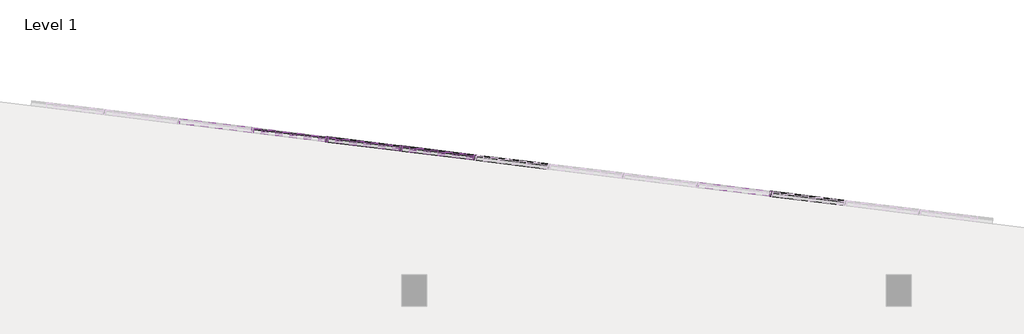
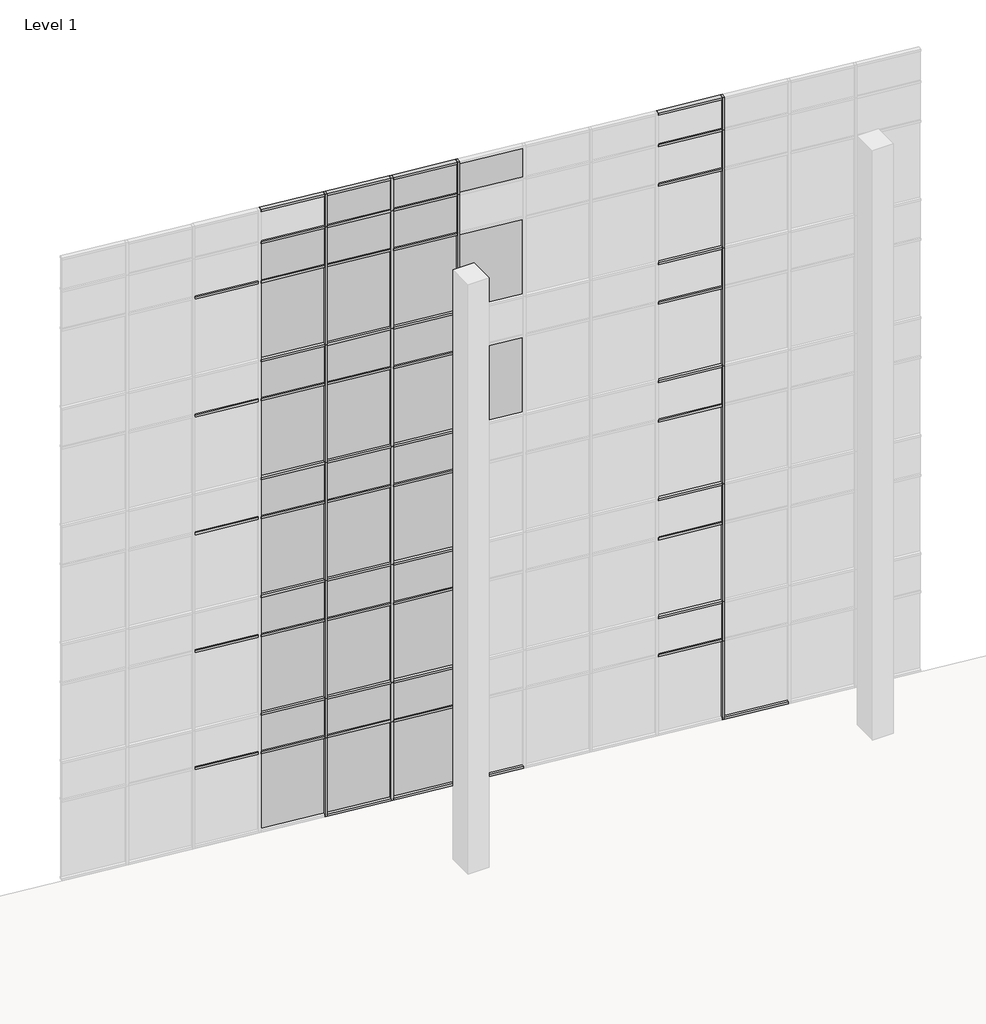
# One storey, part 18 of 23: 81 members, 35 plates.
"""IFC4 building model written with IfcOpenShell, lengths in millimetres."""

from ifc_helpers import new_model, si_unit, origin, place, context, project, spatial, transform, mapped, element, save
from components import member_2b49869a, member_f92b8aa2, member_810865a4, member_f0fea5a5, member_6d5c3e5e, member_9764dd38, system_panel_glazed_14c75400, system_panel_glazed_5b519c5a, system_panel_solid_5dfe6f83, system_panel_solid_e25e2004, system_panel_solid_b7551183

model = new_model("IFC4")

# Units and contexts
model_context = context("Model", 3, world=origin())
ifc_project = project(units=[si_unit("LENGTHUNIT", "METRE", prefix="MILLI")], contexts=[model_context])

# Site, building, storey
site = spatial("IfcSite", under=ifc_project)
building = spatial("IfcBuilding", under=site)
storey = spatial("IfcBuildingStorey", under=building, Name="Level 1", Elevation=0.0)

# Members
placement = place(None, origin())
member_shape = member_2b49869a(model_context)
element("IfcMember", 1, ObjectType="Rectangular Mullion : 2.5\" x 5\" rectangular", at=placement, inside=storey, context=model_context, shape_type="MappedRepresentation", body=[
    mapped(member_shape, transform((-11146.0047635, 13239.9184774, 2438.4), x_axis=(0.9925461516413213, -0.12186934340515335, 0.0), y_axis=(-0.12186934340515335, -0.9925461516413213, 0.0), z_axis=(0.0, 0.0, -1.0))),
])
element("IfcMember", 2, ObjectType="Rectangular Mullion : 2.5\" x 5\" rectangular", at=placement, inside=storey, context=model_context, shape_type="MappedRepresentation", body=[
    mapped(member_shape, transform((-254.9943507, 11902.6705461, 2438.4), x_axis=(0.9925461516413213, -0.12186934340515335, 0.0), y_axis=(-0.12186934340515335, -0.9925461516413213, 0.0), z_axis=(0.0, 0.0, -1.0))),
])
member_2_shape = member_f92b8aa2(model_context)
element("IfcMember", 3, ObjectType="Rectangular Mullion : 2.5\" x 5\" rectangular", at=placement, inside=storey, context=model_context, shape_type="MappedRepresentation", body=[
    mapped(member_2_shape, transform((-7515.6679592, 12794.169167, 18288.0), x_axis=(0.9925461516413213, -0.12186934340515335, 0.0), y_axis=(-0.12186934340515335, -0.9925461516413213, 0.0), z_axis=(0.0, 0.0, -1.0))),
])
element("IfcMember", 4, ObjectType="Rectangular Mullion : 2.5\" x 5\" rectangular", at=placement, inside=storey, context=model_context, shape_type="MappedRepresentation", body=[
    mapped(member_2_shape, transform((-9330.8363614, 13017.0438222, 18288.0), x_axis=(0.9925461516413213, -0.12186934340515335, 0.0), y_axis=(-0.12186934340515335, -0.9925461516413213, 0.0), z_axis=(0.0, 0.0, -1.0))),
])
element("IfcMember", 5, ObjectType="Rectangular Mullion : 2.5\" x 5\" rectangular", at=placement, inside=storey, context=model_context, shape_type="MappedRepresentation", body=[
    mapped(member_2_shape, transform((-11146.0047635, 13239.9184774, 18288.0), x_axis=(0.9925461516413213, -0.12186934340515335, 0.0), y_axis=(-0.12186934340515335, -0.9925461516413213, 0.0), z_axis=(0.0, 0.0, -1.0))),
])
element("IfcMember", 6, ObjectType="Rectangular Mullion : 2.5\" x 5\" rectangular", at=placement, inside=storey, context=model_context, shape_type="MappedRepresentation", body=[
    mapped(member_2_shape, transform((-254.9943507, 11902.6705461, 18288.0), x_axis=(0.9925461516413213, -0.12186934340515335, 0.0), y_axis=(-0.12186934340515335, -0.9925461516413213, 0.0), z_axis=(0.0, 0.0, -1.0))),
])
member_3_shape = member_810865a4(model_context)
element("IfcMember", 7, ObjectType="Rectangular Mullion : 2.5\" x 5\" rectangular", at=placement, inside=storey, context=model_context, shape_type="MappedRepresentation", body=[
    mapped(member_3_shape, transform((-11146.0047635, 13239.9184774, 3657.6), x_axis=(0.9925461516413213, -0.12186934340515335, 0.0), y_axis=(-0.12186934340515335, -0.9925461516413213, 0.0), z_axis=(0.0, 0.0, -1.0))),
])
element("IfcMember", 8, ObjectType="Rectangular Mullion : 2.5\" x 5\" rectangular", at=placement, inside=storey, context=model_context, shape_type="MappedRepresentation", body=[
    mapped(member_3_shape, transform((-7515.6679592, 12794.169167, 14630.4), x_axis=(0.9925461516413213, -0.12186934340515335, 0.0), y_axis=(-0.12186934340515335, -0.9925461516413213, 0.0), z_axis=(0.0, 0.0, -1.0))),
])
element("IfcMember", 9, ObjectType="Rectangular Mullion : 2.5\" x 5\" rectangular", at=placement, inside=storey, context=model_context, shape_type="MappedRepresentation", body=[
    mapped(member_3_shape, transform((-7515.6679592, 12794.169167, 10972.8), x_axis=(0.9925461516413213, -0.12186934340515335, 0.0), y_axis=(-0.12186934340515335, -0.9925461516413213, 0.0), z_axis=(0.0, 0.0, -1.0))),
])
element("IfcMember", 10, ObjectType="Rectangular Mullion : 2.5\" x 5\" rectangular", at=placement, inside=storey, context=model_context, shape_type="MappedRepresentation", body=[
    mapped(member_3_shape, transform((-7515.6679592, 12794.169167, 7315.2), x_axis=(0.9925461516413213, -0.12186934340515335, 0.0), y_axis=(-0.12186934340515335, -0.9925461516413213, 0.0), z_axis=(0.0, 0.0, -1.0))),
])
element("IfcMember", 11, ObjectType="Rectangular Mullion : 2.5\" x 5\" rectangular", at=placement, inside=storey, context=model_context, shape_type="MappedRepresentation", body=[
    mapped(member_3_shape, transform((-7515.6679592, 12794.169167, 3657.6), x_axis=(0.9925461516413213, -0.12186934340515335, 0.0), y_axis=(-0.12186934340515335, -0.9925461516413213, 0.0), z_axis=(0.0, 0.0, -1.0))),
])
element("IfcMember", 12, ObjectType="Rectangular Mullion : 2.5\" x 5\" rectangular", at=placement, inside=storey, context=model_context, shape_type="MappedRepresentation", body=[
    mapped(member_3_shape, transform((-9330.8363614, 13017.0438222, 14630.4), x_axis=(0.9925461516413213, -0.12186934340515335, 0.0), y_axis=(-0.12186934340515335, -0.9925461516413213, 0.0), z_axis=(0.0, 0.0, -1.0))),
])
element("IfcMember", 13, ObjectType="Rectangular Mullion : 2.5\" x 5\" rectangular", at=placement, inside=storey, context=model_context, shape_type="MappedRepresentation", body=[
    mapped(member_3_shape, transform((-9330.8363614, 13017.0438222, 10972.8), x_axis=(0.9925461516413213, -0.12186934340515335, 0.0), y_axis=(-0.12186934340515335, -0.9925461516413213, 0.0), z_axis=(0.0, 0.0, -1.0))),
])
element("IfcMember", 14, ObjectType="Rectangular Mullion : 2.5\" x 5\" rectangular", at=placement, inside=storey, context=model_context, shape_type="MappedRepresentation", body=[
    mapped(member_3_shape, transform((-9330.8363614, 13017.0438222, 7315.2), x_axis=(0.9925461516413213, -0.12186934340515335, 0.0), y_axis=(-0.12186934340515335, -0.9925461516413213, 0.0), z_axis=(0.0, 0.0, -1.0))),
])
element("IfcMember", 15, ObjectType="Rectangular Mullion : 2.5\" x 5\" rectangular", at=placement, inside=storey, context=model_context, shape_type="MappedRepresentation", body=[
    mapped(member_3_shape, transform((-9330.8363614, 13017.0438222, 3657.6), x_axis=(0.9925461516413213, -0.12186934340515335, 0.0), y_axis=(-0.12186934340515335, -0.9925461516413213, 0.0), z_axis=(0.0, 0.0, -1.0))),
])
element("IfcMember", 16, ObjectType="Rectangular Mullion : 2.5\" x 5\" rectangular", at=placement, inside=storey, context=model_context, shape_type="MappedRepresentation", body=[
    mapped(member_3_shape, transform((-11146.0047635, 13239.9184774, 14630.4), x_axis=(0.9925461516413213, -0.12186934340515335, 0.0), y_axis=(-0.12186934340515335, -0.9925461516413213, 0.0), z_axis=(0.0, 0.0, -1.0))),
])
element("IfcMember", 17, ObjectType="Rectangular Mullion : 2.5\" x 5\" rectangular", at=placement, inside=storey, context=model_context, shape_type="MappedRepresentation", body=[
    mapped(member_3_shape, transform((-11146.0047635, 13239.9184774, 10972.8), x_axis=(0.9925461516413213, -0.12186934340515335, 0.0), y_axis=(-0.12186934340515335, -0.9925461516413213, 0.0), z_axis=(0.0, 0.0, -1.0))),
])
element("IfcMember", 18, ObjectType="Rectangular Mullion : 2.5\" x 5\" rectangular", at=placement, inside=storey, context=model_context, shape_type="MappedRepresentation", body=[
    mapped(member_3_shape, transform((-11146.0047635, 13239.9184774, 7315.2), x_axis=(0.9925461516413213, -0.12186934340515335, 0.0), y_axis=(-0.12186934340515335, -0.9925461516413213, 0.0), z_axis=(0.0, 0.0, -1.0))),
])
element("IfcMember", 19, ObjectType="Rectangular Mullion : 2.5\" x 5\" rectangular", at=placement, inside=storey, context=model_context, shape_type="MappedRepresentation", body=[
    mapped(member_3_shape, transform((-254.9943507, 11902.6705461, 14630.4), x_axis=(0.9925461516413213, -0.12186934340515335, 0.0), y_axis=(-0.12186934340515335, -0.9925461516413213, 0.0), z_axis=(0.0, 0.0, -1.0))),
])
element("IfcMember", 20, ObjectType="Rectangular Mullion : 2.5\" x 5\" rectangular", at=placement, inside=storey, context=model_context, shape_type="MappedRepresentation", body=[
    mapped(member_3_shape, transform((-254.9943507, 11902.6705461, 10972.8), x_axis=(0.9925461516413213, -0.12186934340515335, 0.0), y_axis=(-0.12186934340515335, -0.9925461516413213, 0.0), z_axis=(0.0, 0.0, -1.0))),
])
element("IfcMember", 21, ObjectType="Rectangular Mullion : 2.5\" x 5\" rectangular", at=placement, inside=storey, context=model_context, shape_type="MappedRepresentation", body=[
    mapped(member_3_shape, transform((-254.9943507, 11902.6705461, 7315.2), x_axis=(0.9925461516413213, -0.12186934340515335, 0.0), y_axis=(-0.12186934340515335, -0.9925461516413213, 0.0), z_axis=(0.0, 0.0, -1.0))),
])
element("IfcMember", 22, ObjectType="Rectangular Mullion : 2.5\" x 5\" rectangular", at=placement, inside=storey, context=model_context, shape_type="MappedRepresentation", body=[
    mapped(member_3_shape, transform((-254.9943507, 11902.6705461, 3657.6), x_axis=(0.9925461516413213, -0.12186934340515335, 0.0), y_axis=(-0.12186934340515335, -0.9925461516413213, 0.0), z_axis=(0.0, 0.0, -1.0))),
])
member_4_shape = member_f0fea5a5(model_context)
element("IfcMember", 23, ObjectType="Rectangular Mullion : 2.5\" x 5\" rectangular", at=placement, inside=storey, context=model_context, shape_type="MappedRepresentation", body=[
    mapped(member_4_shape, transform((-11146.0047635, 13239.9184774, 0.0), x_axis=(0.9925461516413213, -0.12186934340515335, 0.0), y_axis=(-0.12186934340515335, -0.9925461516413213, 0.0), z_axis=(0.0, 0.0, -1.0))),
])
element("IfcMember", 24, ObjectType="Rectangular Mullion : 2.5\" x 5\" rectangular", at=placement, inside=storey, context=model_context, shape_type="MappedRepresentation", body=[
    mapped(member_4_shape, transform((-254.9943507, 11902.6705461, 0.0), x_axis=(0.9925461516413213, -0.12186934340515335, 0.0), y_axis=(-0.12186934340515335, -0.9925461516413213, 0.0), z_axis=(0.0, 0.0, -1.0))),
])
element("IfcMember", 25, ObjectType="Rectangular Mullion : 2.5\" x 5\" rectangular", at=placement, inside=storey, context=model_context, shape_type="MappedRepresentation", body=[
    mapped(member_4_shape, transform((-7515.6679592, 12794.169167, 0.0), x_axis=(0.9925461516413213, -0.12186934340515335, 0.0), y_axis=(-0.12186934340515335, -0.9925461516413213, 0.0), z_axis=(0.0, 0.0, -1.0))),
])
element("IfcMember", 26, ObjectType="Rectangular Mullion : 2.5\" x 5\" rectangular", at=placement, inside=storey, context=model_context, shape_type="MappedRepresentation", body=[
    mapped(member_4_shape, transform((-9330.8363614, 13017.0438222, 0.0), x_axis=(0.9925461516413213, -0.12186934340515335, 0.0), y_axis=(-0.12186934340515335, -0.9925461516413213, 0.0), z_axis=(0.0, 0.0, -1.0))),
])
element("IfcMember", 27, ObjectType="Rectangular Mullion : 2.5\" x 5\" rectangular", at=placement, inside=storey, context=model_context, shape_type="MappedRepresentation", body=[
    mapped(member_shape, transform((-7515.6679592, 12794.169167, 2438.4), x_axis=(0.9925461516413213, -0.12186934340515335, 0.0), y_axis=(-0.12186934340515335, -0.9925461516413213, 0.0), z_axis=(0.0, 0.0, -1.0))),
])
element("IfcMember", 28, ObjectType="Rectangular Mullion : 2.5\" x 5\" rectangular", at=placement, inside=storey, context=model_context, shape_type="MappedRepresentation", body=[
    mapped(member_shape, transform((-9330.8363614, 13017.0438222, 2438.4), x_axis=(0.9925461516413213, -0.12186934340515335, 0.0), y_axis=(-0.12186934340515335, -0.9925461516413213, 0.0), z_axis=(0.0, 0.0, -1.0))),
])
member_5_shape = member_6d5c3e5e(model_context)
element("IfcMember", 29, ObjectType="Rectangular Mullion : 2.5\" x 5\" rectangular", at=placement, inside=storey, context=model_context, shape_type="MappedRepresentation", body=[
    mapped(member_5_shape, transform((-9362.3497017, 13020.9131738, 19304.0), x_axis=(0.0, 0.0, 1.0), y_axis=(-0.12186934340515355, -0.9925461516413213, 0.0), z_axis=(0.9925461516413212, -0.12186934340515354, 0.0))),
])
element("IfcMember", 30, ObjectType="Rectangular Mullion : 2.5\" x 5\" rectangular", at=placement, inside=storey, context=model_context, shape_type="MappedRepresentation", body=[
    mapped(member_5_shape, transform((-11177.5181038, 13243.7878291, 19304.0), x_axis=(0.0, 0.0, 1.0), y_axis=(-0.12186934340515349, -0.9925461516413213, 0.0), z_axis=(0.9925461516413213, -0.12186934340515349, 0.0))),
])
element("IfcMember", 31, ObjectType="Rectangular Mullion : 2.5\" x 5\" rectangular", at=placement, inside=storey, context=model_context, shape_type="MappedRepresentation", body=[
    mapped(member_5_shape, transform((-286.5076911, 11906.5398977, 19304.0), x_axis=(0.0, 0.0, 1.0), y_axis=(-0.12186934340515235, -0.9925461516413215, 0.0), z_axis=(0.9925461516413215, -0.12186934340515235, 0.0))),
])
element("IfcMember", 32, ObjectType="Rectangular Mullion : 2.5\" x 5\" rectangular", at=placement, inside=storey, context=model_context, shape_type="MappedRepresentation", body=[
    mapped(member_5_shape, transform((-7547.1812995, 12798.0385186, 19304.0), x_axis=(0.0, 0.0, 1.0), y_axis=(-0.12186934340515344, -0.9925461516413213, 0.0), z_axis=(0.9925461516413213, -0.12186934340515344, 0.0))),
])
member_6_shape = member_9764dd38(model_context)
element("IfcMember", 33, ObjectType="Rectangular Mullion : 2.5\" x 5\" rectangular", at=placement, inside=storey, context=model_context, shape_type="MappedRepresentation", body=[
    mapped(member_6_shape, transform((-286.5076911, 11906.5398977, 17068.8), x_axis=(0.0, 0.0, 1.0), y_axis=(-0.12186934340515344, -0.9925461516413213, 0.0), z_axis=(0.9925461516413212, -0.12186934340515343, 0.0))),
])
element("IfcMember", 34, ObjectType="Rectangular Mullion : 2.5\" x 5\" rectangular", at=placement, inside=storey, context=model_context, shape_type="MappedRepresentation", body=[
    mapped(member_6_shape, transform((-7547.1812995, 12798.0385186, 17068.8), x_axis=(0.0, 0.0, 1.0), y_axis=(-0.12186934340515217, -0.9925461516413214, 0.0), z_axis=(0.9925461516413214, -0.12186934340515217, 0.0))),
])
element("IfcMember", 35, ObjectType="Rectangular Mullion : 2.5\" x 5\" rectangular", at=placement, inside=storey, context=model_context, shape_type="MappedRepresentation", body=[
    mapped(member_6_shape, transform((-9362.3497017, 13020.9131738, 17068.8), x_axis=(0.0, 0.0, 1.0), y_axis=(-0.12186934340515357, -0.9925461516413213, 0.0), z_axis=(0.9925461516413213, -0.12186934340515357, 0.0))),
])
element("IfcMember", 36, ObjectType="Rectangular Mullion : 2.5\" x 5\" rectangular", at=placement, inside=storey, context=model_context, shape_type="MappedRepresentation", body=[
    mapped(member_6_shape, transform((-11177.5181038, 13243.7878291, 17068.8), x_axis=(0.0, 0.0, 1.0), y_axis=(-0.12186934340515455, -0.9925461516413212, 0.0), z_axis=(0.9925461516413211, -0.12186934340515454, 0.0))),
])
element("IfcMember", 37, ObjectType="Rectangular Mullion : 2.5\" x 5\" rectangular", at=placement, inside=storey, context=model_context, shape_type="MappedRepresentation", body=[
    mapped(member_6_shape, transform((-12992.6865059, 13466.6624843, 17068.8), x_axis=(0.0, 0.0, 1.0), y_axis=(-0.12186934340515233, -0.9925461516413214, 0.0), z_axis=(0.9925461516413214, -0.12186934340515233, 0.0))),
])
element("IfcMember", 38, ObjectType="Rectangular Mullion : 2.5\" x 5\" rectangular", at=placement, inside=storey, context=model_context, shape_type="MappedRepresentation", body=[
    mapped(member_6_shape, transform((-286.5076911, 11906.5398977, 13411.2), x_axis=(0.0, 0.0, 1.0), y_axis=(-0.12186934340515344, -0.9925461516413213, 0.0), z_axis=(0.9925461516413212, -0.12186934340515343, 0.0))),
])
element("IfcMember", 39, ObjectType="Rectangular Mullion : 2.5\" x 5\" rectangular", at=placement, inside=storey, context=model_context, shape_type="MappedRepresentation", body=[
    mapped(member_6_shape, transform((-7547.1812995, 12798.0385186, 13411.2), x_axis=(0.0, 0.0, 1.0), y_axis=(-0.12186934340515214, -0.9925461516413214, 0.0), z_axis=(0.9925461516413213, -0.12186934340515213, 0.0))),
])
element("IfcMember", 40, ObjectType="Rectangular Mullion : 2.5\" x 5\" rectangular", at=placement, inside=storey, context=model_context, shape_type="MappedRepresentation", body=[
    mapped(member_6_shape, transform((-9362.3497017, 13020.9131738, 13411.2), x_axis=(0.0, 0.0, 1.0), y_axis=(-0.12186934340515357, -0.9925461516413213, 0.0), z_axis=(0.9925461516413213, -0.12186934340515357, 0.0))),
])
element("IfcMember", 41, ObjectType="Rectangular Mullion : 2.5\" x 5\" rectangular", at=placement, inside=storey, context=model_context, shape_type="MappedRepresentation", body=[
    mapped(member_6_shape, transform((-11177.5181038, 13243.7878291, 13411.2), x_axis=(0.0, 0.0, 1.0), y_axis=(-0.12186934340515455, -0.9925461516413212, 0.0), z_axis=(0.9925461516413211, -0.12186934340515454, 0.0))),
])
element("IfcMember", 42, ObjectType="Rectangular Mullion : 2.5\" x 5\" rectangular", at=placement, inside=storey, context=model_context, shape_type="MappedRepresentation", body=[
    mapped(member_6_shape, transform((-12992.6865059, 13466.6624843, 13411.2), x_axis=(0.0, 0.0, 1.0), y_axis=(-0.12186934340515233, -0.9925461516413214, 0.0), z_axis=(0.9925461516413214, -0.12186934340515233, 0.0))),
])
element("IfcMember", 43, ObjectType="Rectangular Mullion : 2.5\" x 5\" rectangular", at=placement, inside=storey, context=model_context, shape_type="MappedRepresentation", body=[
    mapped(member_6_shape, transform((-286.5076911, 11906.5398977, 9753.6), x_axis=(0.0, 0.0, 1.0), y_axis=(-0.12186934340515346, -0.9925461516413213, 0.0), z_axis=(0.9925461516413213, -0.12186934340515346, 0.0))),
])
element("IfcMember", 44, ObjectType="Rectangular Mullion : 2.5\" x 5\" rectangular", at=placement, inside=storey, context=model_context, shape_type="MappedRepresentation", body=[
    mapped(member_6_shape, transform((-7547.1812995, 12798.0385186, 9753.6), x_axis=(0.0, 0.0, 1.0), y_axis=(-0.12186934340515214, -0.9925461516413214, 0.0), z_axis=(0.9925461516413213, -0.12186934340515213, 0.0))),
])
element("IfcMember", 45, ObjectType="Rectangular Mullion : 2.5\" x 5\" rectangular", at=placement, inside=storey, context=model_context, shape_type="MappedRepresentation", body=[
    mapped(member_6_shape, transform((-9362.3497017, 13020.9131738, 9753.6), x_axis=(0.0, 0.0, 1.0), y_axis=(-0.12186934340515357, -0.9925461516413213, 0.0), z_axis=(0.9925461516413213, -0.12186934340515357, 0.0))),
])
element("IfcMember", 46, ObjectType="Rectangular Mullion : 2.5\" x 5\" rectangular", at=placement, inside=storey, context=model_context, shape_type="MappedRepresentation", body=[
    mapped(member_6_shape, transform((-11177.5181038, 13243.7878291, 9753.6), x_axis=(0.0, 0.0, 1.0), y_axis=(-0.12186934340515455, -0.9925461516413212, 0.0), z_axis=(0.9925461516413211, -0.12186934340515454, 0.0))),
])
element("IfcMember", 47, ObjectType="Rectangular Mullion : 2.5\" x 5\" rectangular", at=placement, inside=storey, context=model_context, shape_type="MappedRepresentation", body=[
    mapped(member_6_shape, transform((-12992.6865059, 13466.6624843, 9753.6), x_axis=(0.0, 0.0, 1.0), y_axis=(-0.12186934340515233, -0.9925461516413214, 0.0), z_axis=(0.9925461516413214, -0.12186934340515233, 0.0))),
])
element("IfcMember", 48, ObjectType="Rectangular Mullion : 2.5\" x 5\" rectangular", at=placement, inside=storey, context=model_context, shape_type="MappedRepresentation", body=[
    mapped(member_6_shape, transform((-286.5076911, 11906.5398977, 6096.0), x_axis=(0.0, 0.0, 1.0), y_axis=(-0.12186934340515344, -0.9925461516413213, 0.0), z_axis=(0.9925461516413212, -0.12186934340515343, 0.0))),
])
element("IfcMember", 49, ObjectType="Rectangular Mullion : 2.5\" x 5\" rectangular", at=placement, inside=storey, context=model_context, shape_type="MappedRepresentation", body=[
    mapped(member_6_shape, transform((-7547.1812995, 12798.0385186, 6096.0), x_axis=(0.0, 0.0, 1.0), y_axis=(-0.12186934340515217, -0.9925461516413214, 0.0), z_axis=(0.9925461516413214, -0.12186934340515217, 0.0))),
])
element("IfcMember", 50, ObjectType="Rectangular Mullion : 2.5\" x 5\" rectangular", at=placement, inside=storey, context=model_context, shape_type="MappedRepresentation", body=[
    mapped(member_6_shape, transform((-9362.3497017, 13020.9131738, 6096.0), x_axis=(0.0, 0.0, 1.0), y_axis=(-0.12186934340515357, -0.9925461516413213, 0.0), z_axis=(0.9925461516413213, -0.12186934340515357, 0.0))),
])
element("IfcMember", 51, ObjectType="Rectangular Mullion : 2.5\" x 5\" rectangular", at=placement, inside=storey, context=model_context, shape_type="MappedRepresentation", body=[
    mapped(member_6_shape, transform((-11177.5181038, 13243.7878291, 6096.0), x_axis=(0.0, 0.0, 1.0), y_axis=(-0.12186934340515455, -0.9925461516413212, 0.0), z_axis=(0.9925461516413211, -0.12186934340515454, 0.0))),
])
element("IfcMember", 52, ObjectType="Rectangular Mullion : 2.5\" x 5\" rectangular", at=placement, inside=storey, context=model_context, shape_type="MappedRepresentation", body=[
    mapped(member_6_shape, transform((-12992.6865059, 13466.6624843, 6096.0), x_axis=(0.0, 0.0, 1.0), y_axis=(-0.12186934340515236, -0.9925461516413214, 0.0), z_axis=(0.9925461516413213, -0.12186934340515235, 0.0))),
])
element("IfcMember", 53, ObjectType="Rectangular Mullion : 2.5\" x 5\" rectangular", at=placement, inside=storey, context=model_context, shape_type="MappedRepresentation", body=[
    mapped(member_6_shape, transform((-286.5076911, 11906.5398977, 2470.15), x_axis=(0.0, 0.0, 1.0), y_axis=(-0.12186934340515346, -0.9925461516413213, 0.0), z_axis=(0.9925461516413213, -0.12186934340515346, 0.0))),
])
element("IfcMember", 54, ObjectType="Rectangular Mullion : 2.5\" x 5\" rectangular", at=placement, inside=storey, context=model_context, shape_type="MappedRepresentation", body=[
    mapped(member_6_shape, transform((-9362.3497017, 13020.9131738, 2470.15), x_axis=(0.0, 0.0, 1.0), y_axis=(-0.12186934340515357, -0.9925461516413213, 0.0), z_axis=(0.9925461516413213, -0.12186934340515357, 0.0))),
])
element("IfcMember", 55, ObjectType="Rectangular Mullion : 2.5\" x 5\" rectangular", at=placement, inside=storey, context=model_context, shape_type="MappedRepresentation", body=[
    mapped(member_6_shape, transform((-11177.5181038, 13243.7878291, 2470.15), x_axis=(0.0, 0.0, 1.0), y_axis=(-0.12186934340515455, -0.9925461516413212, 0.0), z_axis=(0.9925461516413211, -0.12186934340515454, 0.0))),
])
element("IfcMember", 56, ObjectType="Rectangular Mullion : 2.5\" x 5\" rectangular", at=placement, inside=storey, context=model_context, shape_type="MappedRepresentation", body=[
    mapped(member_6_shape, transform((-12992.6865059, 13466.6624843, 2470.15), x_axis=(0.0, 0.0, 1.0), y_axis=(-0.12186934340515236, -0.9925461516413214, 0.0), z_axis=(0.9925461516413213, -0.12186934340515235, 0.0))),
])
element("IfcMember", 57, ObjectType="Rectangular Mullion : 2.5\" x 5\" rectangular", at=placement, inside=storey, context=model_context, shape_type="MappedRepresentation", body=[
    mapped(member_5_shape, transform((-223.4810104, 11898.8011944, 0.0), x_axis=(0.0, 0.0, -1.0), y_axis=(-0.12186934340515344, -0.9925461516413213, 0.0), z_axis=(-0.9925461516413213, 0.12186934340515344, 0.0))),
])
element("IfcMember", 58, ObjectType="Rectangular Mullion : 2.5\" x 5\" rectangular", at=placement, inside=storey, context=model_context, shape_type="MappedRepresentation", body=[
    mapped(member_5_shape, transform((-7484.1546189, 12790.2998153, 0.0), x_axis=(0.0, 0.0, -1.0), y_axis=(-0.12186934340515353, -0.9925461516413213, 0.0), z_axis=(-0.9925461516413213, 0.12186934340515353, 0.0))),
])
element("IfcMember", 59, ObjectType="Rectangular Mullion : 2.5\" x 5\" rectangular", at=placement, inside=storey, context=model_context, shape_type="MappedRepresentation", body=[
    mapped(member_5_shape, transform((-11114.4914232, 13236.0491257, 0.0), x_axis=(0.0, 0.0, -1.0), y_axis=(-0.12186934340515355, -0.9925461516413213, 0.0), z_axis=(-0.9925461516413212, 0.12186934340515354, 0.0))),
])
element("IfcMember", 60, ObjectType="Rectangular Mullion : 2.5\" x 5\" rectangular", at=placement, inside=storey, context=model_context, shape_type="MappedRepresentation", body=[
    mapped(member_5_shape, transform((-9299.323021, 13013.1744705, 0.0), x_axis=(0.0, 0.0, -1.0), y_axis=(-0.12186934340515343, -0.9925461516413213, 0.0), z_axis=(-0.9925461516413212, 0.12186934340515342, 0.0))),
])
element("IfcMember", 61, ObjectType="Rectangular Mullion : 2.5\" x 5\" rectangular", at=placement, inside=storey, context=model_context, shape_type="MappedRepresentation", body=[
    mapped(member_6_shape, transform((-286.5076911, 11906.5398977, 3657.6), x_axis=(0.0, 0.0, 1.0), y_axis=(-0.12186934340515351, -0.9925461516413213, 0.0), z_axis=(0.9925461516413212, -0.1218693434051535, 0.0))),
])
element("IfcMember", 62, ObjectType="Rectangular Mullion : 2.5\" x 5\" rectangular", at=placement, inside=storey, context=model_context, shape_type="MappedRepresentation", body=[
    mapped(member_6_shape, transform((-7547.1812995, 12798.0385186, 3657.6), x_axis=(0.0, 0.0, 1.0), y_axis=(-0.12186934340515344, -0.9925461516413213, 0.0), z_axis=(0.9925461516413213, -0.12186934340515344, 0.0))),
])
element("IfcMember", 63, ObjectType="Rectangular Mullion : 2.5\" x 5\" rectangular", at=placement, inside=storey, context=model_context, shape_type="MappedRepresentation", body=[
    mapped(member_6_shape, transform((-9362.3497017, 13020.9131738, 3657.6), x_axis=(0.0, 0.0, 1.0), y_axis=(-0.12186934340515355, -0.9925461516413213, 0.0), z_axis=(0.9925461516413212, -0.12186934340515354, 0.0))),
])
element("IfcMember", 64, ObjectType="Rectangular Mullion : 2.5\" x 5\" rectangular", at=placement, inside=storey, context=model_context, shape_type="MappedRepresentation", body=[
    mapped(member_6_shape, transform((-11177.5181038, 13243.7878291, 3657.6), x_axis=(0.0, 0.0, 1.0), y_axis=(-0.12186934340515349, -0.9925461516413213, 0.0), z_axis=(0.9925461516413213, -0.12186934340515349, 0.0))),
])
element("IfcMember", 65, ObjectType="Rectangular Mullion : 2.5\" x 5\" rectangular", at=placement, inside=storey, context=model_context, shape_type="MappedRepresentation", body=[
    mapped(member_6_shape, transform((-286.5076911, 11906.5398977, 10972.8), x_axis=(0.0, 0.0, 1.0), y_axis=(-0.12186934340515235, -0.9925461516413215, 0.0), z_axis=(0.9925461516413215, -0.12186934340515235, 0.0))),
])
element("IfcMember", 66, ObjectType="Rectangular Mullion : 2.5\" x 5\" rectangular", at=placement, inside=storey, context=model_context, shape_type="MappedRepresentation", body=[
    mapped(member_6_shape, transform((-7547.1812995, 12798.0385186, 10972.8), x_axis=(0.0, 0.0, 1.0), y_axis=(-0.12186934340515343, -0.9925461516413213, 0.0), z_axis=(0.9925461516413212, -0.12186934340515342, 0.0))),
])
element("IfcMember", 67, ObjectType="Rectangular Mullion : 2.5\" x 5\" rectangular", at=placement, inside=storey, context=model_context, shape_type="MappedRepresentation", body=[
    mapped(member_6_shape, transform((-9362.3497017, 13020.9131738, 10972.8), x_axis=(0.0, 0.0, 1.0), y_axis=(-0.12186934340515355, -0.9925461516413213, 0.0), z_axis=(0.9925461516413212, -0.12186934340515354, 0.0))),
])
element("IfcMember", 68, ObjectType="Rectangular Mullion : 2.5\" x 5\" rectangular", at=placement, inside=storey, context=model_context, shape_type="MappedRepresentation", body=[
    mapped(member_6_shape, transform((-11177.5181038, 13243.7878291, 10972.8), x_axis=(0.0, 0.0, 1.0), y_axis=(-0.12186934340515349, -0.9925461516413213, 0.0), z_axis=(0.9925461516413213, -0.12186934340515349, 0.0))),
])
element("IfcMember", 69, ObjectType="Rectangular Mullion : 2.5\" x 5\" rectangular", at=placement, inside=storey, context=model_context, shape_type="MappedRepresentation", body=[
    mapped(member_6_shape, transform((-286.5076911, 11906.5398977, 14630.4), x_axis=(0.0, 0.0, 1.0), y_axis=(-0.12186934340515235, -0.9925461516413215, 0.0), z_axis=(0.9925461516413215, -0.12186934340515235, 0.0))),
])
element("IfcMember", 70, ObjectType="Rectangular Mullion : 2.5\" x 5\" rectangular", at=placement, inside=storey, context=model_context, shape_type="MappedRepresentation", body=[
    mapped(member_6_shape, transform((-7547.1812995, 12798.0385186, 14630.4), x_axis=(0.0, 0.0, 1.0), y_axis=(-0.12186934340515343, -0.9925461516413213, 0.0), z_axis=(0.9925461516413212, -0.12186934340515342, 0.0))),
])
element("IfcMember", 71, ObjectType="Rectangular Mullion : 2.5\" x 5\" rectangular", at=placement, inside=storey, context=model_context, shape_type="MappedRepresentation", body=[
    mapped(member_6_shape, transform((-9362.3497017, 13020.9131738, 14630.4), x_axis=(0.0, 0.0, 1.0), y_axis=(-0.12186934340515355, -0.9925461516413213, 0.0), z_axis=(0.9925461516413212, -0.12186934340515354, 0.0))),
])
element("IfcMember", 72, ObjectType="Rectangular Mullion : 2.5\" x 5\" rectangular", at=placement, inside=storey, context=model_context, shape_type="MappedRepresentation", body=[
    mapped(member_6_shape, transform((-11177.5181038, 13243.7878291, 14630.4), x_axis=(0.0, 0.0, 1.0), y_axis=(-0.12186934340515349, -0.9925461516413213, 0.0), z_axis=(0.9925461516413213, -0.12186934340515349, 0.0))),
])
element("IfcMember", 73, ObjectType="Rectangular Mullion : 2.5\" x 5\" rectangular", at=placement, inside=storey, context=model_context, shape_type="MappedRepresentation", body=[
    mapped(member_6_shape, transform((-286.5076911, 11906.5398977, 7315.2), x_axis=(0.0, 0.0, 1.0), y_axis=(-0.12186934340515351, -0.9925461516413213, 0.0), z_axis=(0.9925461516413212, -0.1218693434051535, 0.0))),
])
element("IfcMember", 74, ObjectType="Rectangular Mullion : 2.5\" x 5\" rectangular", at=placement, inside=storey, context=model_context, shape_type="MappedRepresentation", body=[
    mapped(member_6_shape, transform((-7547.1812995, 12798.0385186, 7315.2), x_axis=(0.0, 0.0, 1.0), y_axis=(-0.12186934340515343, -0.9925461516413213, 0.0), z_axis=(0.9925461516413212, -0.12186934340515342, 0.0))),
])
element("IfcMember", 75, ObjectType="Rectangular Mullion : 2.5\" x 5\" rectangular", at=placement, inside=storey, context=model_context, shape_type="MappedRepresentation", body=[
    mapped(member_6_shape, transform((-9362.3497017, 13020.9131738, 7315.2), x_axis=(0.0, 0.0, 1.0), y_axis=(-0.12186934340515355, -0.9925461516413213, 0.0), z_axis=(0.9925461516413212, -0.12186934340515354, 0.0))),
])
element("IfcMember", 76, ObjectType="Rectangular Mullion : 2.5\" x 5\" rectangular", at=placement, inside=storey, context=model_context, shape_type="MappedRepresentation", body=[
    mapped(member_6_shape, transform((-11177.5181038, 13243.7878291, 7315.2), x_axis=(0.0, 0.0, 1.0), y_axis=(-0.12186934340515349, -0.9925461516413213, 0.0), z_axis=(0.9925461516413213, -0.12186934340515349, 0.0))),
])
element("IfcMember", 77, ObjectType="Rectangular Mullion : 2.5\" x 5\" rectangular", at=placement, inside=storey, context=model_context, shape_type="MappedRepresentation", body=[
    mapped(member_6_shape, transform((-7547.1812995, 12798.0385186, 2438.4), x_axis=(0.0, 0.0, 1.0), y_axis=(-0.12186934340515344, -0.9925461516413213, 0.0), z_axis=(0.9925461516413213, -0.12186934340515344, 0.0))),
])
element("IfcMember", 78, ObjectType="Rectangular Mullion : 2.5\" x 5\" rectangular", at=placement, inside=storey, context=model_context, shape_type="MappedRepresentation", body=[
    mapped(member_6_shape, transform((-286.5076911, 11906.5398977, 18288.0), x_axis=(0.0, 0.0, 1.0), y_axis=(-0.12186934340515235, -0.9925461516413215, 0.0), z_axis=(0.9925461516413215, -0.12186934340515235, 0.0))),
])
element("IfcMember", 79, ObjectType="Rectangular Mullion : 2.5\" x 5\" rectangular", at=placement, inside=storey, context=model_context, shape_type="MappedRepresentation", body=[
    mapped(member_6_shape, transform((-7547.1812995, 12798.0385186, 18288.0), x_axis=(0.0, 0.0, 1.0), y_axis=(-0.12186934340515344, -0.9925461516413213, 0.0), z_axis=(0.9925461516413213, -0.12186934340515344, 0.0))),
])
element("IfcMember", 80, ObjectType="Rectangular Mullion : 2.5\" x 5\" rectangular", at=placement, inside=storey, context=model_context, shape_type="MappedRepresentation", body=[
    mapped(member_6_shape, transform((-9362.3497017, 13020.9131738, 18288.0), x_axis=(0.0, 0.0, 1.0), y_axis=(-0.12186934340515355, -0.9925461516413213, 0.0), z_axis=(0.9925461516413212, -0.12186934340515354, 0.0))),
])
element("IfcMember", 81, ObjectType="Rectangular Mullion : 2.5\" x 5\" rectangular", at=placement, inside=storey, context=model_context, shape_type="MappedRepresentation", body=[
    mapped(member_6_shape, transform((-11177.5181038, 13243.7878291, 18288.0), x_axis=(0.0, 0.0, 1.0), y_axis=(-0.12186934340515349, -0.9925461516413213, 0.0), z_axis=(0.9925461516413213, -0.12186934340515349, 0.0))),
])

# Plates
system_panel_glazed_shape = system_panel_glazed_14c75400(model_context)
element("IfcPlate", 82, ObjectType="System Panel : Glazed", at=placement, inside=storey, context=model_context, shape_type="MappedRepresentation", body=[
    mapped(system_panel_glazed_shape, transform((-6608.0837582, 12682.7318394, 14662.15), x_axis=(0.9925461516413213, -0.12186934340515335, 0.0), y_axis=(0.12186934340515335, 0.9925461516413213, 0.0), z_axis=(0.0, 0.0, 1.0))),
])
element("IfcPlate", 83, ObjectType="System Panel : Glazed", at=placement, inside=storey, context=model_context, shape_type="MappedRepresentation", body=[
    mapped(system_panel_glazed_shape, transform((-8423.2521603, 12905.6064946, 14662.15), x_axis=(0.9925461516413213, -0.12186934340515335, 0.0), y_axis=(0.12186934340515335, 0.9925461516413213, 0.0), z_axis=(0.0, 0.0, 1.0))),
])
element("IfcPlate", 84, ObjectType="System Panel : Glazed", at=placement, inside=storey, context=model_context, shape_type="MappedRepresentation", body=[
    mapped(system_panel_glazed_shape, transform((-10238.4205624, 13128.4811498, 14662.15), x_axis=(0.9925461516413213, -0.12186934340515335, 0.0), y_axis=(0.12186934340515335, 0.9925461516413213, 0.0), z_axis=(0.0, 0.0, 1.0))),
])
element("IfcPlate", 85, ObjectType="System Panel : Glazed", at=placement, inside=storey, context=model_context, shape_type="MappedRepresentation", body=[
    mapped(system_panel_glazed_shape, transform((-12053.5889645, 13351.355805, 14662.15), x_axis=(0.9925461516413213, -0.12186934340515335, 0.0), y_axis=(0.12186934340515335, 0.9925461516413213, 0.0), z_axis=(0.0, 0.0, 1.0))),
])
element("IfcPlate", 86, ObjectType="System Panel : Glazed", at=placement, inside=storey, context=model_context, shape_type="MappedRepresentation", body=[
    mapped(system_panel_glazed_shape, transform((-6608.0837582, 12682.7318394, 11004.55), x_axis=(0.9925461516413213, -0.12186934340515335, 0.0), y_axis=(0.12186934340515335, 0.9925461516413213, 0.0), z_axis=(0.0, 0.0, 1.0))),
])
element("IfcPlate", 87, ObjectType="System Panel : Glazed", at=placement, inside=storey, context=model_context, shape_type="MappedRepresentation", body=[
    mapped(system_panel_glazed_shape, transform((-8423.2521603, 12905.6064946, 11004.55), x_axis=(0.9925461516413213, -0.12186934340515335, 0.0), y_axis=(0.12186934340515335, 0.9925461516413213, 0.0), z_axis=(0.0, 0.0, 1.0))),
])
element("IfcPlate", 88, ObjectType="System Panel : Glazed", at=placement, inside=storey, context=model_context, shape_type="MappedRepresentation", body=[
    mapped(system_panel_glazed_shape, transform((-10238.4205624, 13128.4811498, 11004.55), x_axis=(0.9925461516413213, -0.12186934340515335, 0.0), y_axis=(0.12186934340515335, 0.9925461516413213, 0.0), z_axis=(0.0, 0.0, 1.0))),
])
element("IfcPlate", 89, ObjectType="System Panel : Glazed", at=placement, inside=storey, context=model_context, shape_type="MappedRepresentation", body=[
    mapped(system_panel_glazed_shape, transform((-12053.5889645, 13351.355805, 11004.55), x_axis=(0.9925461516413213, -0.12186934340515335, 0.0), y_axis=(0.12186934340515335, 0.9925461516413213, 0.0), z_axis=(0.0, 0.0, 1.0))),
])
element("IfcPlate", 90, ObjectType="System Panel : Glazed", at=placement, inside=storey, context=model_context, shape_type="MappedRepresentation", body=[
    mapped(system_panel_glazed_shape, transform((-8423.2521603, 12905.6064946, 7346.95), x_axis=(0.9925461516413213, -0.12186934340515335, 0.0), y_axis=(0.12186934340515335, 0.9925461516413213, 0.0), z_axis=(0.0, 0.0, 1.0))),
])
element("IfcPlate", 91, ObjectType="System Panel : Glazed", at=placement, inside=storey, context=model_context, shape_type="MappedRepresentation", body=[
    mapped(system_panel_glazed_shape, transform((-10238.4205624, 13128.4811498, 7346.95), x_axis=(0.9925461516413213, -0.12186934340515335, 0.0), y_axis=(0.12186934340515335, 0.9925461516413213, 0.0), z_axis=(0.0, 0.0, 1.0))),
])
element("IfcPlate", 92, ObjectType="System Panel : Glazed", at=placement, inside=storey, context=model_context, shape_type="MappedRepresentation", body=[
    mapped(system_panel_glazed_shape, transform((-12053.5889645, 13351.355805, 7346.95), x_axis=(0.9925461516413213, -0.12186934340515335, 0.0), y_axis=(0.12186934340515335, 0.9925461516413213, 0.0), z_axis=(0.0, 0.0, 1.0))),
])
element("IfcPlate", 93, ObjectType="System Panel : Glazed", at=placement, inside=storey, context=model_context, shape_type="MappedRepresentation", body=[
    mapped(system_panel_glazed_shape, transform((-8423.2521603, 12905.6064946, 3689.35), x_axis=(0.9925461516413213, -0.12186934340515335, 0.0), y_axis=(0.12186934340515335, 0.9925461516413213, 0.0), z_axis=(0.0, 0.0, 1.0))),
])
element("IfcPlate", 94, ObjectType="System Panel : Glazed", at=placement, inside=storey, context=model_context, shape_type="MappedRepresentation", body=[
    mapped(system_panel_glazed_shape, transform((-10238.4205624, 13128.4811498, 3689.35), x_axis=(0.9925461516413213, -0.12186934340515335, 0.0), y_axis=(0.12186934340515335, 0.9925461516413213, 0.0), z_axis=(0.0, 0.0, 1.0))),
])
element("IfcPlate", 95, ObjectType="System Panel : Glazed", at=placement, inside=storey, context=model_context, shape_type="MappedRepresentation", body=[
    mapped(system_panel_glazed_shape, transform((-12053.5889645, 13351.355805, 3689.35), x_axis=(0.9925461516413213, -0.12186934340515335, 0.0), y_axis=(0.12186934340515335, 0.9925461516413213, 0.0), z_axis=(0.0, 0.0, 1.0))),
])
element("IfcPlate", 96, ObjectType="System Panel : Glazed", at=placement, inside=storey, context=model_context, shape_type="MappedRepresentation", body=[
    mapped(system_panel_glazed_shape, transform((-10238.4205624, 13128.4811498, 63.5), x_axis=(0.9925461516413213, -0.12186934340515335, 0.0), y_axis=(0.12186934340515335, 0.9925461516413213, 0.0), z_axis=(0.0, 0.0, 1.0))),
])
element("IfcPlate", 97, ObjectType="System Panel : Glazed", at=placement, inside=storey, context=model_context, shape_type="MappedRepresentation", body=[
    mapped(system_panel_glazed_shape, transform((-12053.5889645, 13351.355805, 63.5), x_axis=(0.9925461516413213, -0.12186934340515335, 0.0), y_axis=(0.12186934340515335, 0.9925461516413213, 0.0), z_axis=(0.0, 0.0, 1.0))),
])
system_panel_glazed_2_shape = system_panel_glazed_5b519c5a(model_context)
element("IfcPlate", 98, ObjectType="System Panel : Glazed", at=placement, inside=storey, context=model_context, shape_type="MappedRepresentation", body=[
    mapped(system_panel_glazed_2_shape, transform((-8423.2521603, 12905.6064946, 63.5), x_axis=(0.9925461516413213, -0.12186934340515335, 0.0), y_axis=(0.12186934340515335, 0.9925461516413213, 0.0), z_axis=(0.0, 0.0, 1.0))),
])
system_panel_solid_shape = system_panel_solid_5dfe6f83(model_context)
element("IfcPlate", 99, ObjectType="System Panel : Solid", at=placement, inside=storey, context=model_context, shape_type="MappedRepresentation", body=[
    mapped(system_panel_solid_shape, transform((-10238.4205624, 13128.4811498, 18319.75), x_axis=(0.9925461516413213, -0.12186934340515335, 0.0), y_axis=(0.12186934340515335, 0.9925461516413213, 0.0), z_axis=(0.0, 0.0, 1.0))),
])
element("IfcPlate", 100, ObjectType="System Panel : Solid", at=placement, inside=storey, context=model_context, shape_type="MappedRepresentation", body=[
    mapped(system_panel_solid_shape, transform((-8423.2521603, 12905.6064946, 18319.75), x_axis=(0.9925461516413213, -0.12186934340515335, 0.0), y_axis=(0.12186934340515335, 0.9925461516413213, 0.0), z_axis=(0.0, 0.0, 1.0))),
])
element("IfcPlate", 101, ObjectType="System Panel : Solid", at=placement, inside=storey, context=model_context, shape_type="MappedRepresentation", body=[
    mapped(system_panel_solid_shape, transform((-6608.0837582, 12682.7318394, 18319.75), x_axis=(0.9925461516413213, -0.12186934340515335, 0.0), y_axis=(0.12186934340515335, 0.9925461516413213, 0.0), z_axis=(0.0, 0.0, 1.0))),
])
system_panel_solid_2_shape = system_panel_solid_e25e2004(model_context)
element("IfcPlate", 102, ObjectType="System Panel : Solid", at=placement, inside=storey, context=model_context, shape_type="MappedRepresentation", body=[
    mapped(system_panel_solid_2_shape, transform((-8423.2521603, 12905.6064946, 2470.15), x_axis=(0.9925461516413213, -0.12186934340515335, 0.0), y_axis=(0.12186934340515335, 0.9925461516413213, 0.0), z_axis=(0.0, 0.0, 1.0))),
])
element("IfcPlate", 103, ObjectType="System Panel : Solid", at=placement, inside=storey, context=model_context, shape_type="MappedRepresentation", body=[
    mapped(system_panel_solid_2_shape, transform((-8423.2521603, 12905.6064946, 17100.55), x_axis=(0.9925461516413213, -0.12186934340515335, 0.0), y_axis=(0.12186934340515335, 0.9925461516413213, 0.0), z_axis=(0.0, 0.0, 1.0))),
])
element("IfcPlate", 104, ObjectType="System Panel : Solid", at=placement, inside=storey, context=model_context, shape_type="MappedRepresentation", body=[
    mapped(system_panel_solid_2_shape, transform((-10238.4205624, 13128.4811498, 17100.55), x_axis=(0.9925461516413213, -0.12186934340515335, 0.0), y_axis=(0.12186934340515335, 0.9925461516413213, 0.0), z_axis=(0.0, 0.0, 1.0))),
])
element("IfcPlate", 105, ObjectType="System Panel : Solid", at=placement, inside=storey, context=model_context, shape_type="MappedRepresentation", body=[
    mapped(system_panel_solid_2_shape, transform((-12053.5889645, 13351.355805, 17100.55), x_axis=(0.9925461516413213, -0.12186934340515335, 0.0), y_axis=(0.12186934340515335, 0.9925461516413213, 0.0), z_axis=(0.0, 0.0, 1.0))),
])
element("IfcPlate", 106, ObjectType="System Panel : Solid", at=placement, inside=storey, context=model_context, shape_type="MappedRepresentation", body=[
    mapped(system_panel_solid_2_shape, transform((-8423.2521603, 12905.6064946, 13442.95), x_axis=(0.9925461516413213, -0.12186934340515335, 0.0), y_axis=(0.12186934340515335, 0.9925461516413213, 0.0), z_axis=(0.0, 0.0, 1.0))),
])
element("IfcPlate", 107, ObjectType="System Panel : Solid", at=placement, inside=storey, context=model_context, shape_type="MappedRepresentation", body=[
    mapped(system_panel_solid_2_shape, transform((-10238.4205624, 13128.4811498, 13442.95), x_axis=(0.9925461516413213, -0.12186934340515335, 0.0), y_axis=(0.12186934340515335, 0.9925461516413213, 0.0), z_axis=(0.0, 0.0, 1.0))),
])
element("IfcPlate", 108, ObjectType="System Panel : Solid", at=placement, inside=storey, context=model_context, shape_type="MappedRepresentation", body=[
    mapped(system_panel_solid_2_shape, transform((-12053.5889645, 13351.355805, 13442.95), x_axis=(0.9925461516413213, -0.12186934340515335, 0.0), y_axis=(0.12186934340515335, 0.9925461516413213, 0.0), z_axis=(0.0, 0.0, 1.0))),
])
element("IfcPlate", 109, ObjectType="System Panel : Solid", at=placement, inside=storey, context=model_context, shape_type="MappedRepresentation", body=[
    mapped(system_panel_solid_2_shape, transform((-8423.2521603, 12905.6064946, 9785.35), x_axis=(0.9925461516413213, -0.12186934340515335, 0.0), y_axis=(0.12186934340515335, 0.9925461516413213, 0.0), z_axis=(0.0, 0.0, 1.0))),
])
element("IfcPlate", 110, ObjectType="System Panel : Solid", at=placement, inside=storey, context=model_context, shape_type="MappedRepresentation", body=[
    mapped(system_panel_solid_2_shape, transform((-10238.4205624, 13128.4811498, 9785.35), x_axis=(0.9925461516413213, -0.12186934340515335, 0.0), y_axis=(0.12186934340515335, 0.9925461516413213, 0.0), z_axis=(0.0, 0.0, 1.0))),
])
element("IfcPlate", 111, ObjectType="System Panel : Solid", at=placement, inside=storey, context=model_context, shape_type="MappedRepresentation", body=[
    mapped(system_panel_solid_2_shape, transform((-12053.5889645, 13351.355805, 9785.35), x_axis=(0.9925461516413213, -0.12186934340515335, 0.0), y_axis=(0.12186934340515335, 0.9925461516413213, 0.0), z_axis=(0.0, 0.0, 1.0))),
])
element("IfcPlate", 112, ObjectType="System Panel : Solid", at=placement, inside=storey, context=model_context, shape_type="MappedRepresentation", body=[
    mapped(system_panel_solid_2_shape, transform((-8423.2521603, 12905.6064946, 6127.75), x_axis=(0.9925461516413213, -0.12186934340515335, 0.0), y_axis=(0.12186934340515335, 0.9925461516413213, 0.0), z_axis=(0.0, 0.0, 1.0))),
])
element("IfcPlate", 113, ObjectType="System Panel : Solid", at=placement, inside=storey, context=model_context, shape_type="MappedRepresentation", body=[
    mapped(system_panel_solid_2_shape, transform((-10238.4205624, 13128.4811498, 6127.75), x_axis=(0.9925461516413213, -0.12186934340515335, 0.0), y_axis=(0.12186934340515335, 0.9925461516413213, 0.0), z_axis=(0.0, 0.0, 1.0))),
])
element("IfcPlate", 114, ObjectType="System Panel : Solid", at=placement, inside=storey, context=model_context, shape_type="MappedRepresentation", body=[
    mapped(system_panel_solid_2_shape, transform((-12053.5889645, 13351.355805, 6127.75), x_axis=(0.9925461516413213, -0.12186934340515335, 0.0), y_axis=(0.12186934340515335, 0.9925461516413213, 0.0), z_axis=(0.0, 0.0, 1.0))),
])
system_panel_solid_3_shape = system_panel_solid_b7551183(model_context)
element("IfcPlate", 115, ObjectType="System Panel : Solid", at=placement, inside=storey, context=model_context, shape_type="MappedRepresentation", body=[
    mapped(system_panel_solid_3_shape, transform((-10238.4205624, 13128.4811498, 2501.9), x_axis=(0.9925461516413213, -0.12186934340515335, 0.0), y_axis=(0.12186934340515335, 0.9925461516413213, 0.0), z_axis=(0.0, 0.0, 1.0))),
])
element("IfcPlate", 116, ObjectType="System Panel : Solid", at=placement, inside=storey, context=model_context, shape_type="MappedRepresentation", body=[
    mapped(system_panel_solid_3_shape, transform((-12053.5889645, 13351.355805, 2501.9), x_axis=(0.9925461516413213, -0.12186934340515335, 0.0), y_axis=(0.12186934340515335, 0.9925461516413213, 0.0), z_axis=(0.0, 0.0, 1.0))),
])

save(model, "model.ifc")
